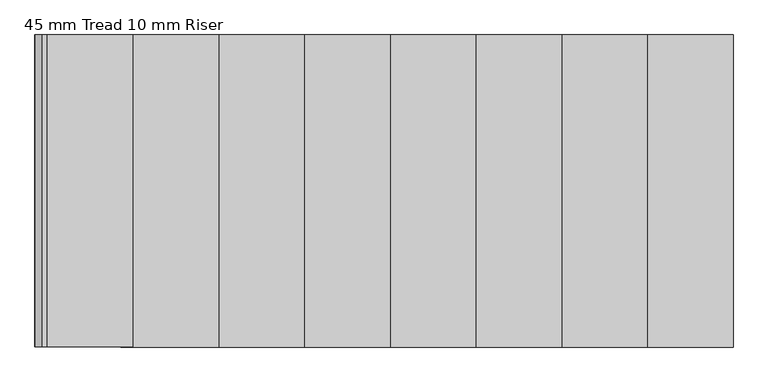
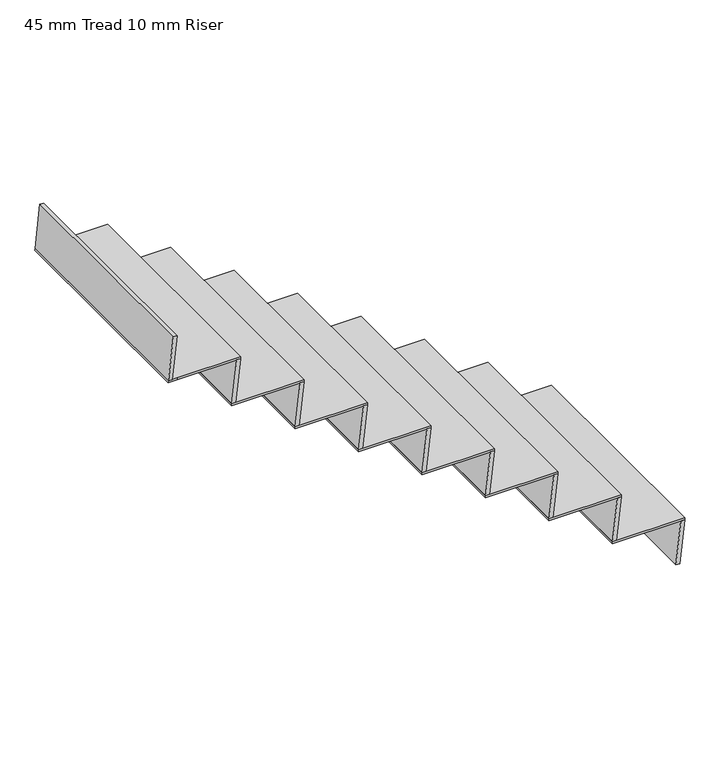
"""IFC4 building model written with IfcOpenShell, lengths in millimetres: stair flight geometry, 45 mm Tread 10 mm Riser."""

from ifc_helpers import new_model, si_unit, origin, place, context, project, spatial, faceted_brep, source, transform, mapped, element, save


def stair_flight_45_mm_tread_10_mm_riser_32063b4d(model_context):
    return source(origin(), model_context, "Body", "Brep", [
        faceted_brep([(14699.6818516, 8759.9999985, 1925.8333333), (14680.5000334, 8759.9999985, 1750.0), (14665.4110412, 8759.9999985, 1750.0), (14684.5928593, 8759.9999985, 1925.8333333), (14699.6818516, 7849.9999985, 1925.8333333), (14684.5928593, 7849.9999985, 1925.8333333), (14665.4110412, 7849.9999985, 1750.0), (14680.5000334, 7849.9999985, 1750.0)], [[[0, 1, 2, 3]], [[4, 5, 6, 7]], [[1, 0, 4, 7]], [[2, 1, 7, 6]], [[3, 2, 6, 5]], [[0, 3, 5, 4]]]),
        faceted_brep([(14415.4110412, 7849.9999985, 1933.3333333), (14700.5000334, 7849.9999985, 1933.3333333), (14700.5000334, 8759.9999985, 1933.3333333), (14415.4110412, 8759.9999985, 1933.3333333), (14414.5928593, 7849.9999985, 1925.8333333), (14414.5928593, 8759.9999985, 1925.8333333), (14699.6818516, 8759.9999985, 1925.8333333), (14699.6818516, 7849.9999985, 1925.8333333)], [[[0, 1, 2, 3]], [[4, 5, 6, 7]], [[1, 0, 4, 7]], [[3, 2, 6, 5]], [[3, 5, 4, 0]], [[2, 1, 7, 6]]]),
        faceted_brep([(14449.6818516, 8759.9999985, 2109.1666667), (14430.5000334, 8759.9999985, 1933.3333333), (14415.4110412, 8759.9999985, 1933.3333333), (14434.5928593, 8759.9999985, 2109.1666667), (14449.6818516, 7849.9999985, 2109.1666667), (14434.5928593, 7849.9999985, 2109.1666667), (14415.4110412, 7849.9999985, 1933.3333333), (14430.5000334, 7849.9999985, 1933.3333333)], [[[0, 1, 2, 3]], [[4, 5, 6, 7]], [[1, 0, 4, 7]], [[2, 1, 7, 6]], [[3, 2, 6, 5]], [[0, 3, 5, 4]]]),
        faceted_brep([(14165.4110412, 7849.9999985, 2116.6666667), (14450.5000334, 7849.9999985, 2116.6666667), (14450.5000334, 8759.9999985, 2116.6666667), (14165.4110412, 8759.9999985, 2116.6666667), (14164.5928593, 7849.9999985, 2109.1666667), (14164.5928593, 8759.9999985, 2109.1666667), (14449.6818516, 8759.9999985, 2109.1666667), (14449.6818516, 7849.9999985, 2109.1666667)], [[[0, 1, 2, 3]], [[4, 5, 6, 7]], [[1, 0, 4, 7]], [[3, 2, 6, 5]], [[3, 5, 4, 0]], [[2, 1, 7, 6]]]),
        faceted_brep([(14199.6818516, 8759.9999985, 2292.5), (14180.5000334, 8759.9999985, 2116.6666667), (14165.4110412, 8759.9999985, 2116.6666667), (14184.5928593, 8759.9999985, 2292.5), (14199.6818516, 7849.9999985, 2292.5), (14184.5928593, 7849.9999985, 2292.5), (14165.4110412, 7849.9999985, 2116.6666667), (14180.5000334, 7849.9999985, 2116.6666667)], [[[0, 1, 2, 3]], [[4, 5, 6, 7]], [[1, 0, 4, 7]], [[2, 1, 7, 6]], [[3, 2, 6, 5]], [[0, 3, 5, 4]]]),
        faceted_brep([(13915.4110412, 7849.9999985, 2300.0), (14200.5000334, 7849.9999985, 2300.0), (14200.5000334, 8759.9999985, 2300.0), (13915.4110412, 8759.9999985, 2300.0), (13914.5928593, 7849.9999985, 2292.5), (13914.5928593, 8759.9999985, 2292.5), (14199.6818516, 8759.9999985, 2292.5), (14199.6818516, 7849.9999985, 2292.5)], [[[0, 1, 2, 3]], [[4, 5, 6, 7]], [[1, 0, 4, 7]], [[3, 2, 6, 5]], [[3, 5, 4, 0]], [[2, 1, 7, 6]]]),
        faceted_brep([(13949.6818516, 8759.9999985, 2475.8333333), (13930.5000334, 8759.9999985, 2300.0), (13915.4110412, 8759.9999985, 2300.0), (13934.5928593, 8759.9999985, 2475.8333333), (13949.6818516, 7849.9999985, 2475.8333333), (13934.5928593, 7849.9999985, 2475.8333333), (13915.4110412, 7849.9999985, 2300.0), (13930.5000334, 7849.9999985, 2300.0)], [[[0, 1, 2, 3]], [[4, 5, 6, 7]], [[1, 0, 4, 7]], [[2, 1, 7, 6]], [[3, 2, 6, 5]], [[0, 3, 5, 4]]]),
        faceted_brep([(13665.4110412, 7849.9999985, 2483.3333333), (13950.5000334, 7849.9999985, 2483.3333333), (13950.5000334, 8759.9999985, 2483.3333333), (13665.4110412, 8759.9999985, 2483.3333333), (13664.5928593, 7849.9999985, 2475.8333333), (13664.5928593, 8759.9999985, 2475.8333333), (13949.6818516, 8759.9999985, 2475.8333333), (13949.6818516, 7849.9999985, 2475.8333333)], [[[0, 1, 2, 3]], [[4, 5, 6, 7]], [[1, 0, 4, 7]], [[3, 2, 6, 5]], [[3, 5, 4, 0]], [[2, 1, 7, 6]]]),
        faceted_brep([(13699.6818516, 8759.9999985, 2659.1666667), (13680.5000334, 8759.9999985, 2483.3333333), (13665.4110412, 8759.9999985, 2483.3333333), (13684.5928593, 8759.9999985, 2659.1666667), (13699.6818516, 7849.9999985, 2659.1666667), (13684.5928593, 7849.9999985, 2659.1666667), (13665.4110412, 7849.9999985, 2483.3333333), (13680.5000334, 7849.9999985, 2483.3333333)], [[[0, 1, 2, 3]], [[4, 5, 6, 7]], [[1, 0, 4, 7]], [[2, 1, 7, 6]], [[3, 2, 6, 5]], [[0, 3, 5, 4]]]),
        faceted_brep([(13415.4110412, 7849.9999985, 2666.6666667), (13700.5000334, 7849.9999985, 2666.6666667), (13700.5000334, 8759.9999985, 2666.6666667), (13415.4110412, 8759.9999985, 2666.6666667), (13414.5928593, 7849.9999985, 2659.1666667), (13414.5928593, 8759.9999985, 2659.1666667), (13699.6818516, 8759.9999985, 2659.1666667), (13699.6818516, 7849.9999985, 2659.1666667)], [[[0, 1, 2, 3]], [[4, 5, 6, 7]], [[1, 0, 4, 7]], [[3, 2, 6, 5]], [[3, 5, 4, 0]], [[2, 1, 7, 6]]]),
        faceted_brep([(13449.6818516, 8759.9999985, 2842.5), (13430.5000334, 8759.9999985, 2666.6666667), (13415.4110412, 8759.9999985, 2666.6666667), (13434.5928593, 8759.9999985, 2842.5), (13449.6818516, 7849.9999985, 2842.5), (13434.5928593, 7849.9999985, 2842.5), (13415.4110412, 7849.9999985, 2666.6666667), (13430.5000334, 7849.9999985, 2666.6666667)], [[[0, 1, 2, 3]], [[4, 5, 6, 7]], [[1, 0, 4, 7]], [[2, 1, 7, 6]], [[3, 2, 6, 5]], [[0, 3, 5, 4]]]),
        faceted_brep([(13165.4110412, 7849.9999985, 2850.0), (13450.5000334, 7849.9999985, 2850.0), (13450.5000334, 8759.9999985, 2850.0), (13165.4110412, 8759.9999985, 2850.0), (13164.5928593, 7849.9999985, 2842.5), (13164.5928593, 8759.9999985, 2842.5), (13449.6818516, 8759.9999985, 2842.5), (13449.6818516, 7849.9999985, 2842.5)], [[[0, 1, 2, 3]], [[4, 5, 6, 7]], [[1, 0, 4, 7]], [[3, 2, 6, 5]], [[3, 5, 4, 0]], [[2, 1, 7, 6]]]),
        faceted_brep([(13199.6818516, 8759.9999985, 3025.8333333), (13180.5000334, 8759.9999985, 2850.0), (13165.4110412, 8759.9999985, 2850.0), (13184.5928593, 8759.9999985, 3025.8333333), (13199.6818516, 7849.9999985, 3025.8333333), (13184.5928593, 7849.9999985, 3025.8333333), (13165.4110412, 7849.9999985, 2850.0), (13180.5000334, 7849.9999985, 2850.0)], [[[0, 1, 2, 3]], [[4, 5, 6, 7]], [[1, 0, 4, 7]], [[2, 1, 7, 6]], [[3, 2, 6, 5]], [[0, 3, 5, 4]]]),
        faceted_brep([(12915.4110412, 7849.9999985, 3033.3333333), (13200.5000334, 7849.9999985, 3033.3333333), (13200.5000334, 8759.9999985, 3033.3333333), (12915.4110412, 8759.9999985, 3033.3333333), (12914.5928593, 7849.9999985, 3025.8333333), (12914.5928593, 8759.9999985, 3025.8333333), (13199.6818516, 8759.9999985, 3025.8333333), (13199.6818516, 7849.9999985, 3025.8333333)], [[[0, 1, 2, 3]], [[4, 5, 6, 7]], [[1, 0, 4, 7]], [[3, 2, 6, 5]], [[3, 5, 4, 0]], [[2, 1, 7, 6]]]),
        faceted_brep([(12699.6818516, 8759.9999985, 3392.5), (12680.5000334, 8759.9999985, 3216.6666667), (12665.4110412, 8759.9999985, 3216.6666667), (12684.5928593, 8759.9999985, 3392.5), (12699.6818516, 7849.9999985, 3392.5), (12684.5928593, 7849.9999985, 3392.5), (12665.4110412, 7849.9999985, 3216.6666667), (12680.5000334, 7849.9999985, 3216.6666667)], [[[0, 1, 2, 3]], [[4, 5, 6, 7]], [[1, 0, 4, 7]], [[2, 1, 7, 6]], [[3, 2, 6, 5]], [[0, 3, 5, 4]]]),
        faceted_brep([(12949.6818516, 8759.9999985, 3209.1666667), (12930.5000334, 8759.9999985, 3033.3333333), (12915.4110412, 8759.9999985, 3033.3333333), (12934.5928593, 8759.9999985, 3209.1666667), (12949.6818516, 7849.9999985, 3209.1666667), (12934.5928593, 7849.9999985, 3209.1666667), (12915.4110412, 7849.9999985, 3033.3333333), (12930.5000334, 7849.9999985, 3033.3333333)], [[[0, 1, 2, 3]], [[4, 5, 6, 7]], [[1, 0, 4, 7]], [[2, 1, 7, 6]], [[3, 2, 6, 5]], [[0, 3, 5, 4]]]),
        faceted_brep([(12665.4110412, 7849.9999985, 3216.6666667), (12700.5000334, 7849.9999985, 3216.6666667), (12950.5000334, 7849.9999985, 3216.6666667), (12950.5000334, 8759.9999985, 3216.6666667), (12700.5000334, 8759.9999985, 3216.6666667), (12665.4110412, 8759.9999985, 3216.6666667), (12664.5928593, 7849.9999985, 3209.1666667), (12664.5928593, 8759.9999985, 3209.1666667), (12700.5000334, 8759.9999985, 3209.1666667), (12949.6818516, 8759.9999985, 3209.1666667), (12949.6818516, 7849.9999985, 3209.1666667), (12700.5000334, 7849.9999985, 3209.1666667)], [[[0, 1, 2, 3, 4, 5]], [[6, 7, 8, 9, 10, 11]], [[1, 0, 6, 11]], [[2, 1, 11, 10]], [[4, 3, 9, 8]], [[5, 4, 8, 7]], [[5, 7, 6, 0]], [[3, 2, 10, 9]]]),
    ])


if __name__ == "__main__":
    model = new_model("IFC4")
    model_context = context("Model", 3, world=origin())
    ifc_project = project(units=[si_unit("LENGTHUNIT", "METRE", prefix="MILLI")], contexts=[model_context])
    site = spatial("IfcSite", under=ifc_project)
    building = spatial("IfcBuilding", under=site)
    placement = place(None, origin())
    stair_flight_45_mm_tread_10_mm_riser_shape = stair_flight_45_mm_tread_10_mm_riser_32063b4d(model_context)
    element("IfcStairFlight", 1, ObjectType="45 mm Tread 10 mm Riser", at=placement, inside=building, context=model_context, shape_type="MappedRepresentation", body=[
        mapped(stair_flight_45_mm_tread_10_mm_riser_shape, transform((0.0, 0.0, 0.0), x_axis=(1.0, 0.0, 0.0), y_axis=(0.0, 1.0, 0.0), z_axis=(0.0, 0.0, 1.0))),
    ])
    save(model, "model.ifc")
